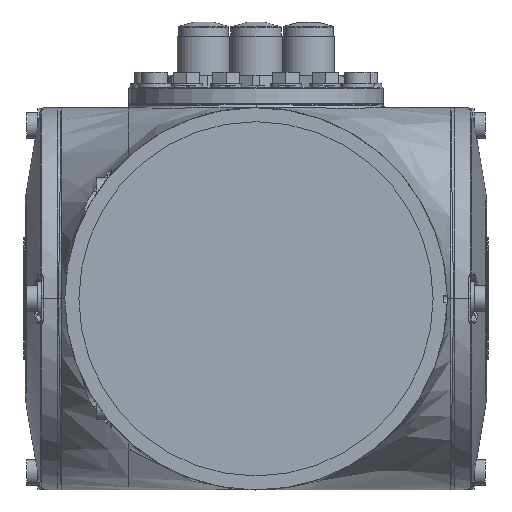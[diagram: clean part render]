
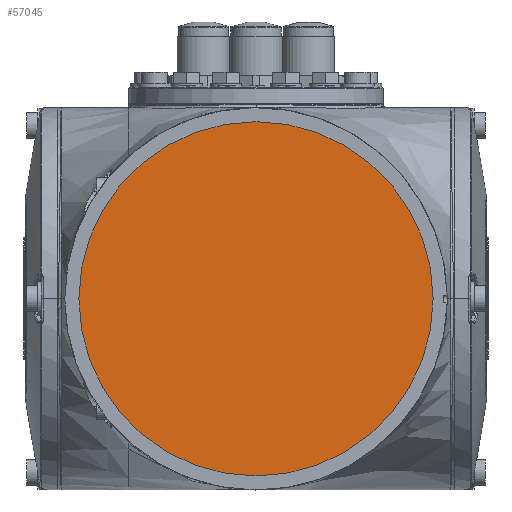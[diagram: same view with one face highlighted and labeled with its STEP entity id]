
A CAD part, left-side view. The second image highlights one B-rep face of the part: STEP entity #57045.
In plain terms, the highlighted planar face has unit normal (-1, 0, 0).
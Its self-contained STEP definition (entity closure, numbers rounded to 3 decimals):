
#5880 = DIRECTION ( 'NONE',  ( 1., 0., 0. ) ) ;
#6432 = EDGE_LOOP ( 'NONE', ( #76617 ) ) ;
#9105 = FACE_OUTER_BOUND ( 'NONE', #6432, .T. ) ;
#9759 = AXIS2_PLACEMENT_3D ( 'NONE', #46623, #58402, #39188 ) ;
#10273 = PLANE ( 'NONE',  #10715 ) ;
#10715 = AXIS2_PLACEMENT_3D ( 'NONE', #76755, #5880, #29169 ) ;
#29169 = DIRECTION ( 'NONE',  ( 0., 1., 0. ) ) ;
#31139 = EDGE_CURVE ( 'NONE', #69452, #69452, #65028, .T. ) ;
#32909 = CARTESIAN_POINT ( 'NONE',  ( 132.5, 47.25, 765. ) ) ;
#39188 = DIRECTION ( 'NONE',  ( 0., 1., 0. ) ) ;
#46623 = CARTESIAN_POINT ( 'NONE',  ( 132.5, 0., 765. ) ) ;
#57045 = ADVANCED_FACE ( 'NONE', ( #9105 ), #10273, .F. ) ;
#58402 = DIRECTION ( 'NONE',  ( 1., 0., 0. ) ) ;
#65028 = CIRCLE ( 'NONE', #9759, 47.25 ) ;
#69452 = VERTEX_POINT ( 'NONE', #32909 ) ;
#76617 = ORIENTED_EDGE ( 'NONE', *, *, #31139, .F. ) ;
#76755 = CARTESIAN_POINT ( 'NONE',  ( 132.5, 0., 812.25 ) ) ;
